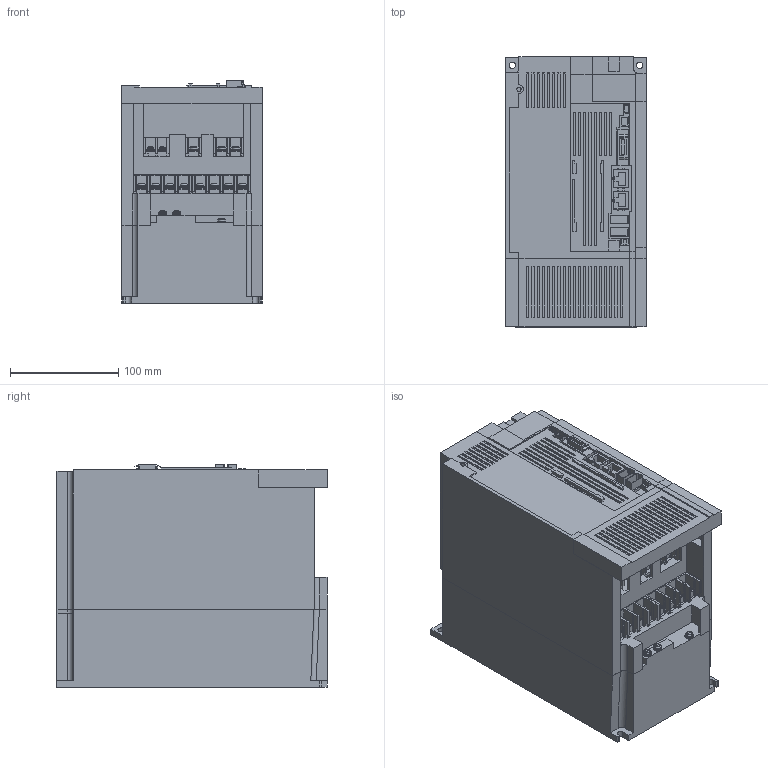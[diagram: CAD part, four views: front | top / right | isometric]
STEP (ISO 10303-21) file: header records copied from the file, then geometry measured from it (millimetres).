
FILE_DESCRIPTION((''),'2;1');
FILE_NAME('MR-J4-500GF4RJA_ASM','2015-10-22T',('ZZ86203'),(''),'PRO/ENGINEER BY PARAMETRIC TECHNOLOGY CORPORATION, 2014310','PRO/ENGINEER BY PARAMETRIC TECHNOLOGY CORPORATION, 2014310','');
FILE_SCHEMA(('CONFIG_CONTROL_DESIGN'));
Length unit declared in the file: millimetre
Products named in the file (22): J4-500_4-CHASSIS; J4-500_4-CASE; J4-500_4-FANCOVER; J4-500_4-FRONTCOVE; J4-500-700-SIDECOVER; J4GFRJ-FRONTPANEL; J4GF-LENZ; J4GF-CN1A; J4GF-CN1B; J4GF-CN2; J4GF-CN3; J4GF-CN4; J4GF-CN5; J4GF-CN8; FAN80; J4-700-TE; J4-700-TE2; SW-PW-P-NA-M4X12-PE; SW-PW-P-NA-M4X8; SW-PW-P-NA-M4X10; SW-PW-P-NA-M3_5X8; MR-J4-500GF4RJA_ASM
Assembly tree (36 placements, depth 2):
  MR-J4-500GF4RJA_ASM
    J4-500_4-CHASSIS
    J4-500_4-CASE
    J4-500_4-FANCOVER
    J4-500_4-FRONTCOVE
    J4-500-700-SIDECOVER
    J4GFRJ-FRONTPANEL
    J4GF-LENZ
    J4GF-CN1A
    J4GF-CN1B
    J4GF-CN2  x2
    J4GF-CN3
    J4GF-CN4
    J4GF-CN5
    J4GF-CN8
    FAN80
    J4-700-TE  x3
    J4-700-TE2
    SW-PW-P-NA-M4X12-PE  x2
    SW-PW-P-NA-M4X8
    SW-PW-P-NA-M4X10  x11
    SW-PW-P-NA-M3_5X8  x2
Bounding box: 130 x 250 x 205.95 mm (x, y, z)
Volume: 2617580.8 mm3; surface area: 497920.1 mm2
Topology: 37 solids, 37 shells, 1602 faces, 4167 edges, 2729 vertices
Faces by surface type: plane 1251, cylinder 255, cone 32, torus 32, sphere 32
Entity records: 37301 total; most frequent: CARTESIAN_POINT 6566, ORIENTED_EDGE 6350, DIRECTION 6029, EDGE_CURVE 3175, VECTOR 2791, LINE 2791, VERTEX_POINT 2107, AXIS2_PLACEMENT_3D 1619
